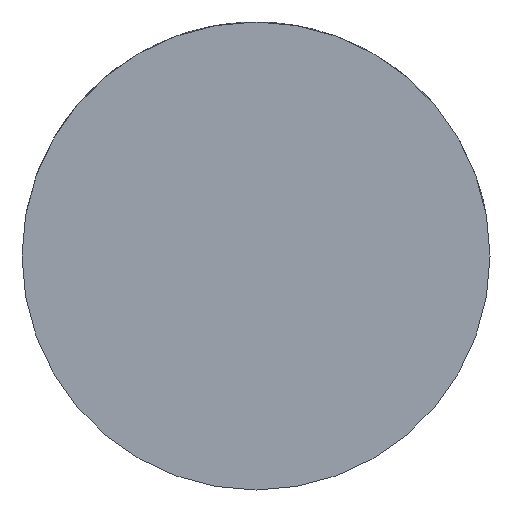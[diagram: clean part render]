
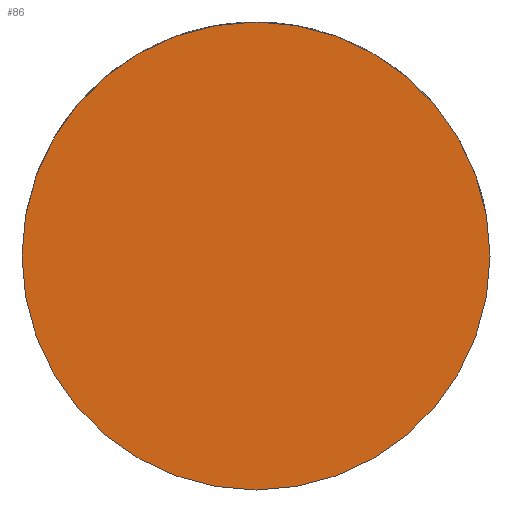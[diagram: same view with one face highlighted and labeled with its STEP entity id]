
A CAD part, front view. The second image highlights one B-rep face of the part: STEP entity #86.
In plain terms, the highlighted planar face has unit normal (0, -1, 0).
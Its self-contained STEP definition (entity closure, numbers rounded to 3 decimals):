
#48=CIRCLE('',#115,20.);
#52=FACE_OUTER_BOUND('',#56,.T.);
#56=EDGE_LOOP('',(#79));
#64=VERTEX_POINT('',#183);
#69=EDGE_CURVE('',#64,#64,#48,.T.);
#79=ORIENTED_EDGE('',*,*,#69,.F.);
#82=PLANE('',#116);
#86=ADVANCED_FACE('',(#52),#82,.F.);
#115=AXIS2_PLACEMENT_3D('',#185,#144,#145);
#116=AXIS2_PLACEMENT_3D('',#186,#146,#147);
#144=DIRECTION('center_axis',(0.,1.,0.));
#145=DIRECTION('ref_axis',(-1.,0.,0.));
#146=DIRECTION('center_axis',(0.,1.,0.));
#147=DIRECTION('ref_axis',(0.,0.,1.));
#183=CARTESIAN_POINT('',(20.,0.,0.));
#185=CARTESIAN_POINT('Origin',(0.,0.,0.));
#186=CARTESIAN_POINT('Origin',(0.,0.,0.));
